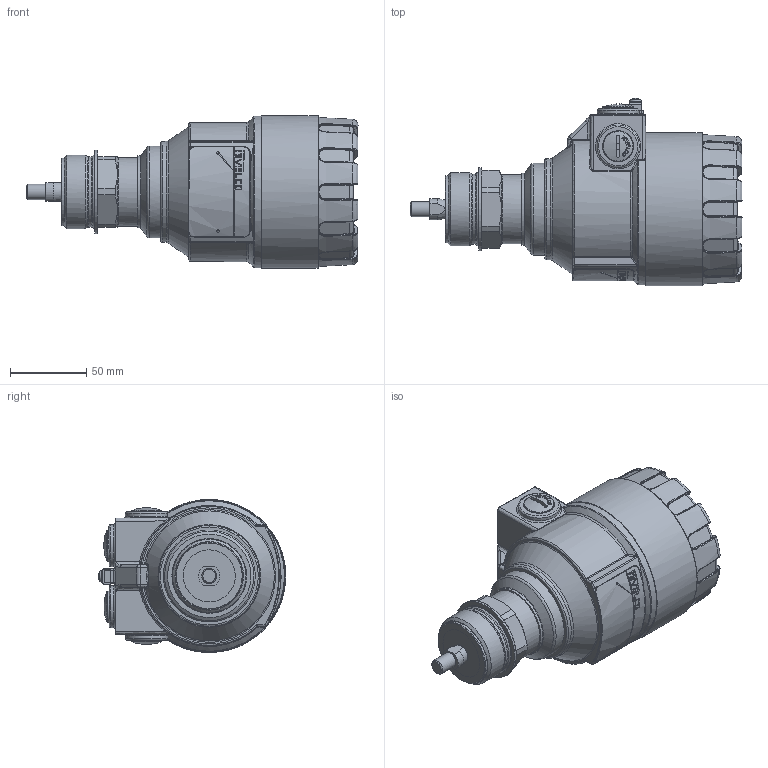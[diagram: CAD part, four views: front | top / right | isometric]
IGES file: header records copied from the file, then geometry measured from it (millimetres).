
Global section: file name: HT_Alu_1.5 col; native system: Autodesk Inventor 2015; preprocessor: unknown; author: aantal; date: 20150306.111218; units: millimetre
Bounding box: 217.02 x 122.57 x 100 mm (x, y, z)
Volume: 953380.6 mm3; surface area: 116370.4 mm2
Topology: 12 solids, 12 shells, 1289 faces, 3191 edges, 1971 vertices
Faces by surface type: bspline 1289
